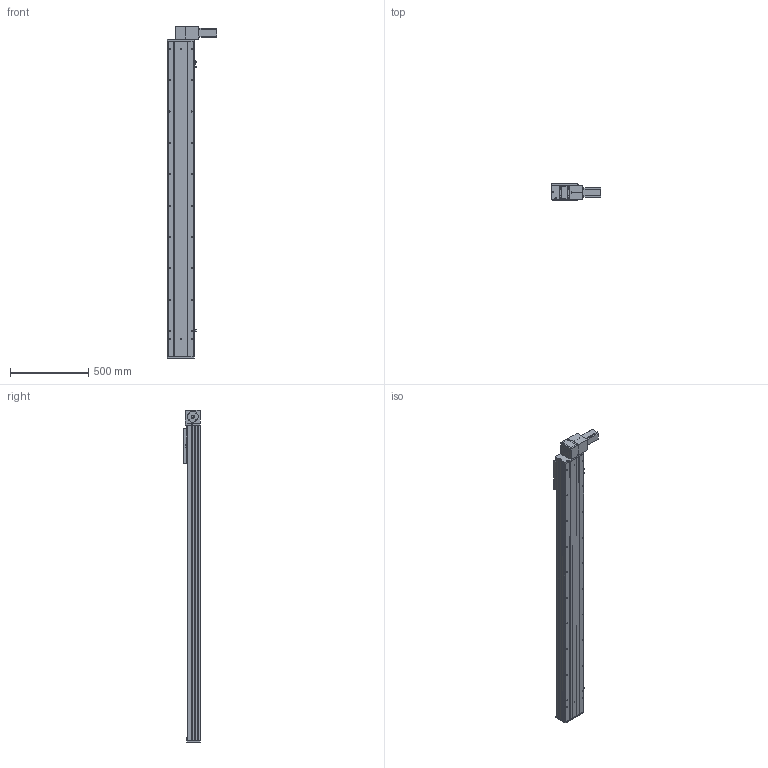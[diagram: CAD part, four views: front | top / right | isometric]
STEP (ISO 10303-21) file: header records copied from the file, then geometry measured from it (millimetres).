
FILE_DESCRIPTION (( 'STEP AP203' ), '1' );
FILE_NAME ('Y170CB-D105-S1700-BD-P400W.STEP', '2020-02-20T08:51:30', ( '微软用户' ), ( '微软中国' ), 'SwSTEP 2.0', 'SolidWorks 2017', '' );
FILE_SCHEMA (( 'CONFIG_CONTROL_DESIGN' ));
Length unit declared in the file: millimetre
Products named in the file (16): Y170CB-陔俋离換覜結え---; --70CB --喘謫眊楊擘啣-; Y1埴倛裔; 70CB-耜裔啣-; 70B喘謫眊----; 70C--詩湍揤踡え-; 0B薊粣ん眊-400W--; 70CB--耜裔; Y170CB-D105-S1700-BD-P400W; 70C-雄赽釱-奻-; 0C--雄赽釱俋欶-170; B-源倛裔啣; 70CB-詩湍--; san松下电机400不带刹车----; Y100-135俋离換覜ん--; 70CB-掛极-
Assembly tree (19 placements, depth 2):
  Y170CB-D105-S1700-BD-P400W
    B-源倛裔啣
    san松下电机400不带刹车----
    70CB-掛极-
    --70CB --喘謫眊楊擘啣-
    70CB-耜裔啣-  x2
    70C--詩湍揤踡え-  x2
    70CB--耜裔
    70C-雄赽釱-奻-
    0C--雄赽釱俋欶-170
    70CB-詩湍--
    Y100-135俋离換覜ん--  x3
    Y170CB-陔俋离換覜結え---
    Y1埴倛裔
    70B喘謫眊----
    0B薊粣ん眊-400W--
Bounding box: 313.5 x 107 x 2116 mm (x, y, z)
Volume: 9582367.6 mm3; surface area: 3319611.2 mm2
Topology: 19 solids, 19 shells, 952 faces, 2522 edges, 1672 vertices
Faces by surface type: cylinder 506, plane 422, cone 24
Entity records: 29887 total; most frequent: CARTESIAN_POINT 5566, DIRECTION 4863, ORIENTED_EDGE 4526, EDGE_CURVE 2263, AXIS2_PLACEMENT_3D 1801, VERTEX_POINT 1502, LINE 1261, VECTOR 1261
